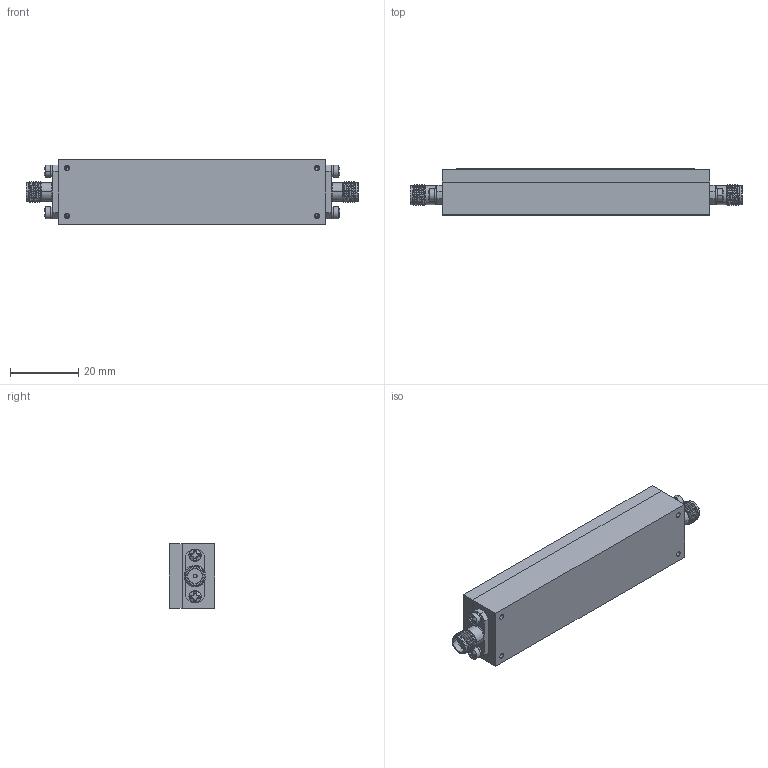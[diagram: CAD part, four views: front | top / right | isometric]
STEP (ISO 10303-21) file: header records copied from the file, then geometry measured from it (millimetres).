
FILE_DESCRIPTION (( 'STEP AP214' ), '1' );
FILE_NAME ('5CL8G-400-CD-SFF-GDO 3D Model.STEP', '2024-11-06T21:54:10', ( '' ), ( '' ), 'SwSTEP 2.0', 'SolidWorks 2024', '' );
FILE_SCHEMA (( 'AUTOMOTIVE_DESIGN' ));
Length unit declared in the file: inch
Products named in the file (1): 5CL8G-400-CD-SFF-GDO 3D Model
Bounding box: 97.55 x 13.49 x 19.05 mm (x, y, z)
Volume: 16808.6 mm3; surface area: 16085.6 mm2
Topology: 48 solids, 48 shells, 1813 faces, 5043 edges, 3416 vertices
Faces by surface type: plane 712, cone 581, cylinder 502, sphere 8, bspline 6, torus 4
Entity records: 65571 total; most frequent: CARTESIAN_POINT 18940, ORIENTED_EDGE 9886, DIRECTION 9134, EDGE_CURVE 4943, VERTEX_POINT 3416, AXIS2_PLACEMENT_3D 3349, LINE 2436, VECTOR 2436
